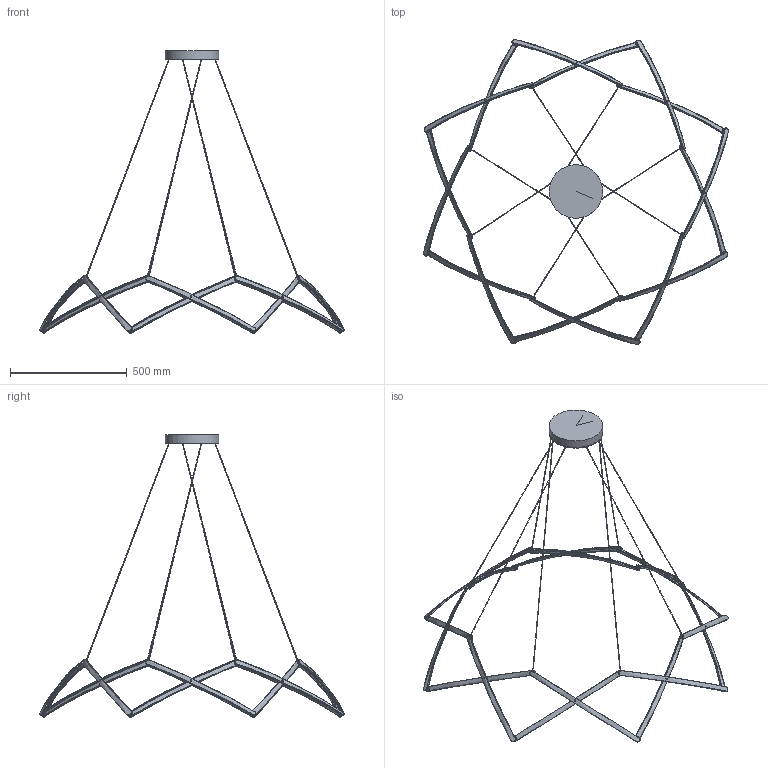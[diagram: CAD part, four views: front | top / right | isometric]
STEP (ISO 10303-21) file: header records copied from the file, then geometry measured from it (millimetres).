
FILE_DESCRIPTION(/* description */ (''),/* implementation_level */ '2;1');
FILE_NAME(/* name */ 'STELLA16 FLAT POS 5',/* time_stamp */ '2024-05-06T13:23:00-07:00',/* author */ (''),/* organization */ (''),/* preprocessor_version */ 'ST-DEVELOPER v18',/* originating_system */ '',/* authorisation */ '');
FILE_SCHEMA (('AUTOMOTIVE_DESIGN { 1 0 10303 214 3 1 1 }'));
Bounding box: 1305.33 x 1305.33 x 1206.31 mm (x, y, z)
Surface area: 704101.8 mm2 (no closed solid volume)
Topology: 0 solids, 1999 shells, 1999 faces, 9633 edges, 9491 vertices
Faces by surface type: bspline 1999
Entity records: 154550 total; most frequent: CARTESIAN_POINT 106935, ORIENTED_EDGE 9693, EDGE_CURVE 9591, VERTEX_POINT 9491, B_SPLINE_CURVE_WITH_KNOTS 4615, EDGE_LOOP 2159, STYLED_ITEM 1999, FACE_OUTER_BOUND 1999
